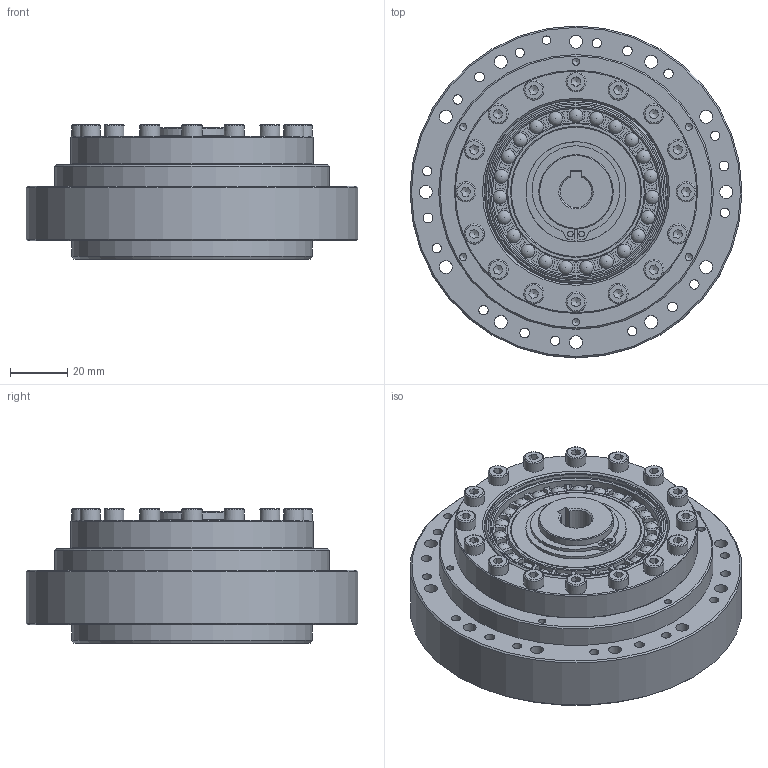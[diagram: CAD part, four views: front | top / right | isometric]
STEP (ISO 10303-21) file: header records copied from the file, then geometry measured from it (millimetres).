
FILE_DESCRIPTION(/* description */ (''),/* implementation_level */ '2;1');
FILE_NAME(/* name */ 'C:\Users\yin210\Desktop\CPU\25\DSC-25-PO-M.stp',/* time_stamp */ '2022-05-16T18:49:30+08:00',/* author */ ('yin210'),/* organization */ (''),/* preprocessor_version */ 'ST-DEVELOPER v15.2',/* originating_system */ 'Autodesk Inventor 2014',/* authorisation */ '');
FILE_SCHEMA (('AUTOMOTIVE_DESIGN { 1 0 10303 214 3 1 1 }'));
Length unit declared in the file: centimetre
Products named in the file (1): DSC-25-PO-M
Bounding box: 116 x 116 x 47 mm (x, y, z)
Volume: 276742.8 mm3; surface area: 63709.3 mm2
Topology: 1 solids, 10 shells, 664 faces, 1651 edges, 1081 vertices
Faces by surface type: plane 288, cylinder 226, cone 88, torus 39, sphere 23
Full cylindrical faces by diameter (mm): 2 x2, 2.459 x6, 3 x1, 3.242 x24, 3.4 x6, 4.134 x12, 4.5 x12, 6.5 x6, 7 x28, 20 x1, 24.9 x1, 26 x3, 26.1 x1, 35 x1, 41 x1, 43 x1, 45.21 x1, 48.385 x1, 53 x1, 58.32 x1, 61.14 x2, 61.34 x1, 68 x1, 84 x1, 85 x1, 96 x1, 116 x1
Entity records: 17579 total; most frequent: CARTESIAN_POINT 3259, DIRECTION 2956, ORIENTED_EDGE 2450, AXIS2_PLACEMENT_3D 1246, EDGE_CURVE 1225, EDGE_LOOP 1062, VERTEX_POINT 913, ADVANCED_FACE 664
